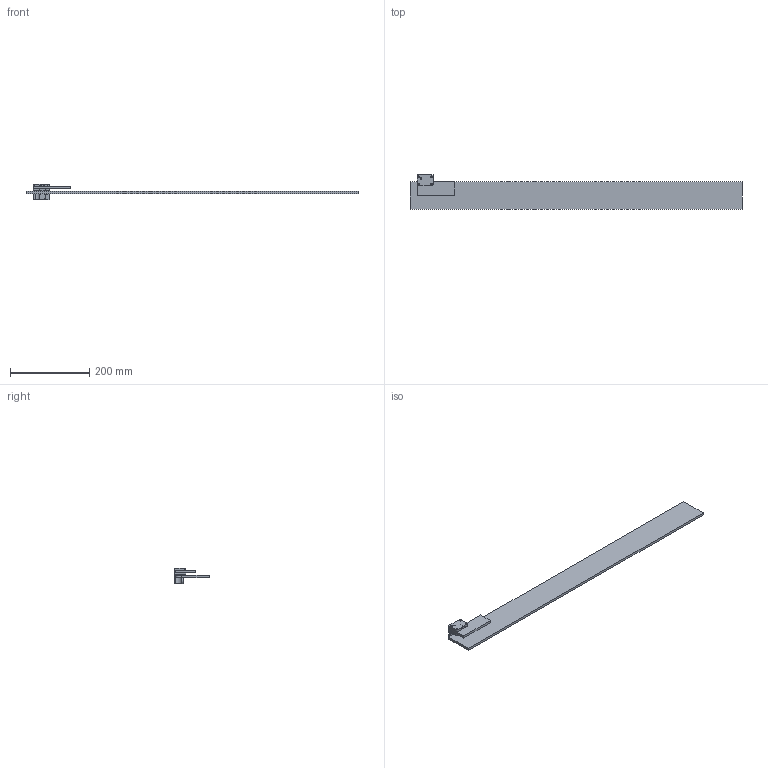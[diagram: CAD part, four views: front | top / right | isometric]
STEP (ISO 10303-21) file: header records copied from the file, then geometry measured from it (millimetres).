
FILE_DESCRIPTION(/* description */ (''),/* implementation_level */ '2;1');
FILE_NAME(/* name */ 'D:/dropbox/CBA/projects/machines/rctgantries/cad/dev/n17/RCTN17-025-01875-ALU v5.step',/* time_stamp */ '2019-01-06T22:05:23-05:00',/* author */ ('jakerobertread@gmail.com'),/* organization */ (''),/* preprocessor_version */ 'ST-DEVELOPER v17.2',/* originating_system */ 'Autodesk Translation Framework v7.6.0.251',/* authorisation */ '');
FILE_SCHEMA (('AUTOMOTIVE_DESIGN { 1 0 10303 214 3 1 1 }'));
Length unit declared in the file: millimetre
Products named in the file (1): RCTN17-025-01875-ALU
Bounding box: 836 x 87.5 x 39.9 mm (x, y, z)
Volume: 416221.4 mm3; surface area: 149318.1 mm2
Topology: 6 solids, 6 shells, 98 faces, 254 edges, 169 vertices
Faces by surface type: plane 50, cylinder 48
Full cylindrical faces by diameter (mm): 3.3 x2, 4.25 x9, 5.8 x6, 16 x3
Entity records: 3193 total; most frequent: CARTESIAN_POINT 629, DIRECTION 528, ORIENTED_EDGE 508, EDGE_CURVE 254, AXIS2_PLACEMENT_3D 187, VERTEX_POINT 169, LINE 154, VECTOR 154
